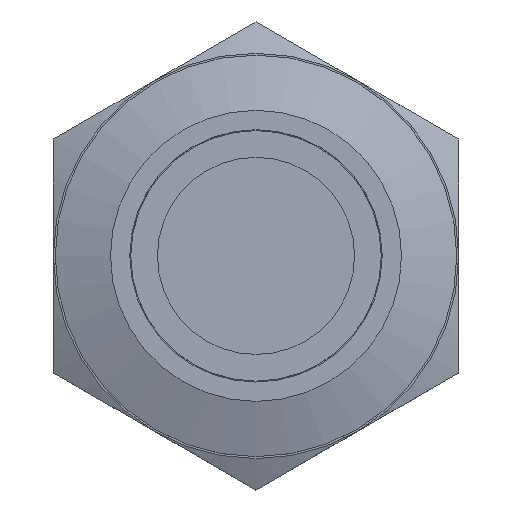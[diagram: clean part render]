
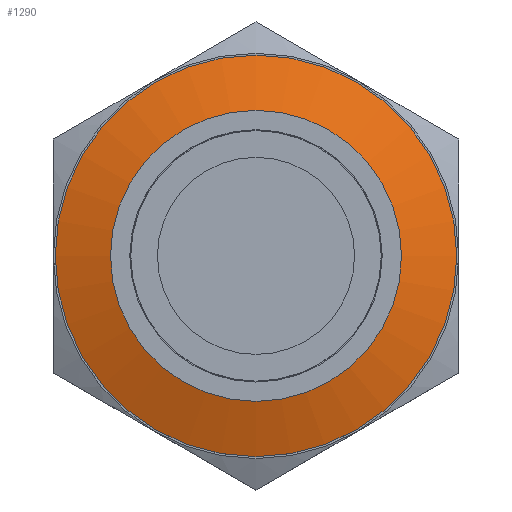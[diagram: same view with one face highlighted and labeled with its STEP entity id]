
A CAD part, top view. The second image highlights one B-rep face of the part: STEP entity #1290.
In plain terms, the highlighted conical face has half-angle 71.565 degrees and reference radius 10.9 mm.
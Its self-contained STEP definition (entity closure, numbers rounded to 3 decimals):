
#121=CONICAL_SURFACE('',#15061,10.9,71.565);
#1290=ADVANCED_FACE('',(#2487,#2488),#121,.T.);
#2487=FACE_BOUND('',#2880,.T.);
#2488=FACE_BOUND('',#2881,.T.);
#2880=EDGE_LOOP('',(#5062));
#2881=EDGE_LOOP('',(#5063));
#3505=CIRCLE('',#15027,7.9);
#3514=CIRCLE('',#15041,10.9);
#5062=ORIENTED_EDGE('',*,*,#9801,.F.);
#5063=ORIENTED_EDGE('',*,*,#9812,.F.);
#8196=VERTEX_POINT('',#20696);
#8207=VERTEX_POINT('',#20739);
#9801=EDGE_CURVE('',#8196,#8196,#3505,.T.);
#9812=EDGE_CURVE('',#8207,#8207,#3514,.T.);
#15027=AXIS2_PLACEMENT_3D('',#20695,#16873,#16874);
#15041=AXIS2_PLACEMENT_3D('',#20738,#16901,#16902);
#15061=AXIS2_PLACEMENT_3D('',#22316,#16944,#16945);
#16873=DIRECTION('',(0.,0.,1.));
#16874=DIRECTION('',(1.,0.,0.));
#16901=DIRECTION('',(0.,0.,-1.));
#16902=DIRECTION('',(1.,0.,0.));
#16944=DIRECTION('',(0.,0.,-1.));
#16945=DIRECTION('',(-1.,0.,0.));
#20695=CARTESIAN_POINT('',(0.,0.,27.9));
#20696=CARTESIAN_POINT('',(7.9,0.,27.9));
#20738=CARTESIAN_POINT('',(0.,0.,26.9));
#20739=CARTESIAN_POINT('',(10.9,0.,26.9));
#22316=CARTESIAN_POINT('',(0.,0.,26.9));
